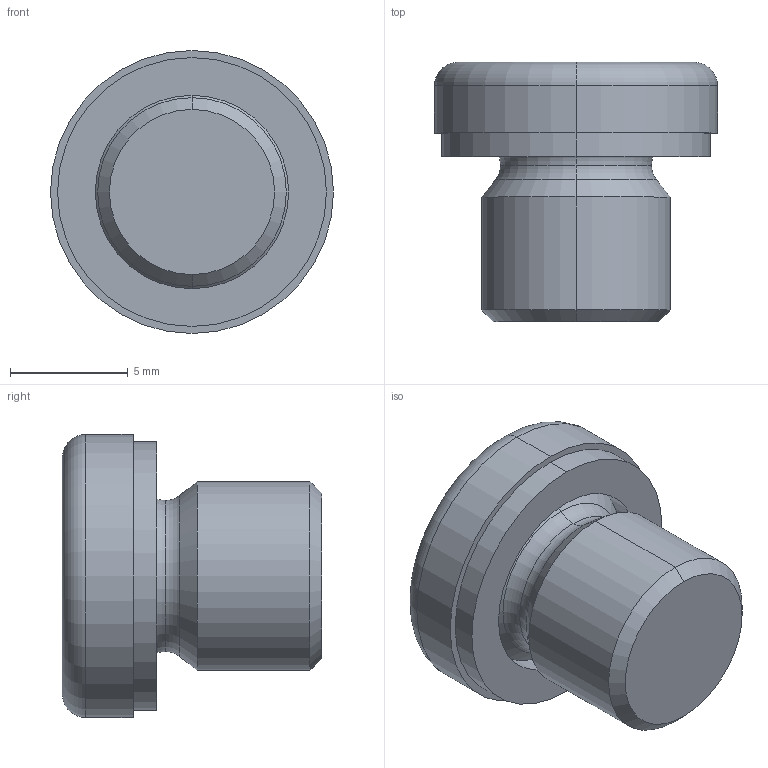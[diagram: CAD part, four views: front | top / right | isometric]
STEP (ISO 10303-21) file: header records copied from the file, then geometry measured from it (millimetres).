
FILE_DESCRIPTION (( 'STEP AP214' ), '1' );
FILE_NAME ('908-A4-M8x1-AC.step', '2024-12-19T09:18:44', ( '' ), ( '' ), 'SwSTEP 2.0', 'SolidWorks 2022', '' );
FILE_SCHEMA (( 'AUTOMOTIVE_DESIGN' ));
Length unit declared in the file: millimetre
Products named in the file (1): 908-A4-M8x1-AC
Bounding box: 12 x 11 x 12 mm (x, y, z)
Volume: 680.8 mm3; surface area: 647.2 mm2
Topology: 1 solids, 1 shells, 31 faces, 64 edges, 38 vertices
Faces by surface type: plane 11, cylinder 8, torus 6, cone 6
Entity records: 929 total; most frequent: DIRECTION 160, CARTESIAN_POINT 134, ORIENTED_EDGE 128, EDGE_CURVE 64, AXIS2_PLACEMENT_3D 64, VERTEX_POINT 38, EDGE_LOOP 34, VECTOR 32
